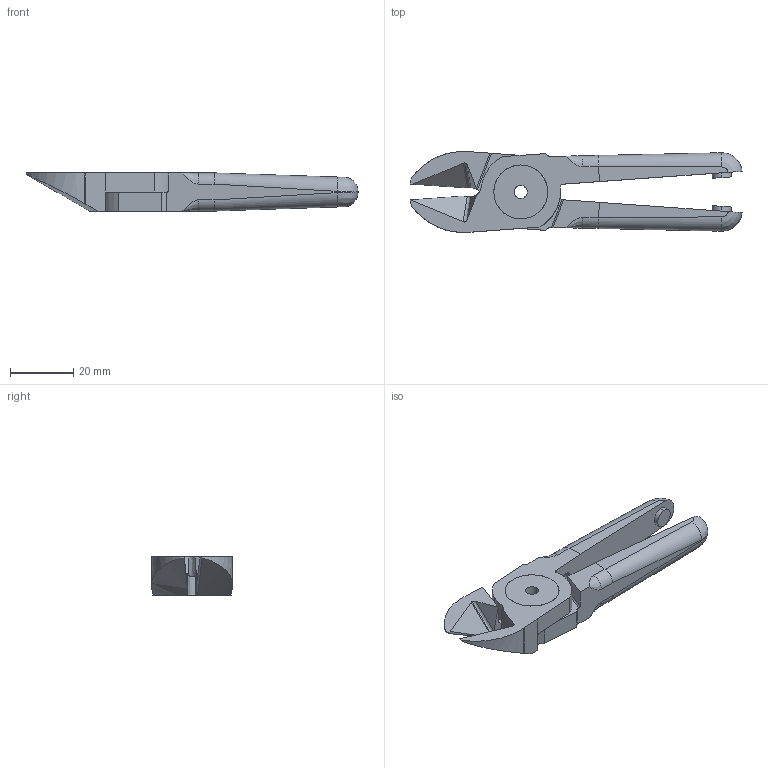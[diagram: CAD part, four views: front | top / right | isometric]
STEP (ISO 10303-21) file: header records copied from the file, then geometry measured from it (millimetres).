
FILE_DESCRIPTION (( 'STEP AP214' ), '1' );
FILE_NAME ('N12HS.STEP', '2019-11-29T02:16:45', ( '微软用户' ), ( '微软中国' ), 'SwSTEP 2.0', 'SolidWorks 2016', '' );
FILE_SCHEMA (( 'AUTOMOTIVE_DESIGN' ));
Length unit declared in the file: millimetre
Products named in the file (4): N12HS; BR2; BR1; BS
Assembly tree (3 placements, depth 2):
  N12HS
    BS
    BR1
    BR2
Bounding box: 104.62 x 25.53 x 12 mm (x, y, z)
Volume: 17411.7 mm3; surface area: 9577.9 mm2
Topology: 3 solids, 3 shells, 121 faces, 330 edges, 211 vertices
Faces by surface type: plane 46, bspline 44, cylinder 24, cone 7
Entity records: 10926 total; most frequent: CARTESIAN_POINT 8216, ORIENTED_EDGE 644, DIRECTION 370, EDGE_CURVE 322, VERTEX_POINT 211, VECTOR 146, LINE 146, EDGE_LOOP 131
